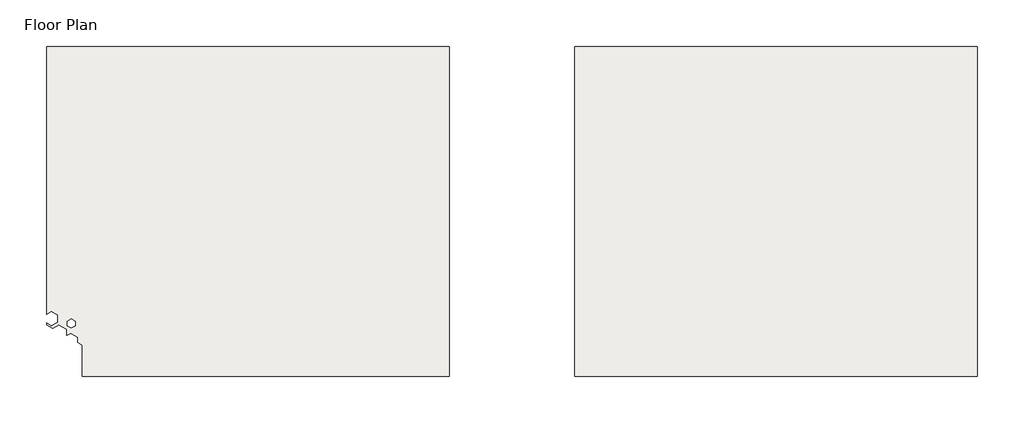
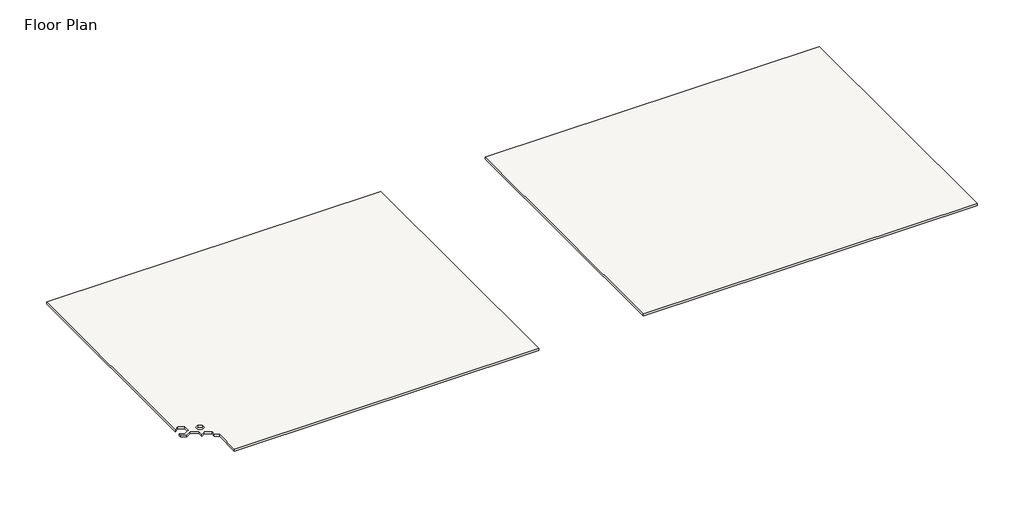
# One storey, incomplete: 2 slabs.
"""IFC4 building model written with IfcOpenShell, lengths in millimetres."""

from ifc_helpers import new_model, si_unit, frame, origin, place, context, project, spatial, polyline, outline, extrude, element, save

model = new_model("IFC4")

# Units and contexts
model_context = context("Model", 3, world=origin())
ifc_project = project(units=[si_unit("LENGTHUNIT", "METRE", prefix="MILLI")], contexts=[model_context])

# Site, building, storey
site = spatial("IfcSite", under=ifc_project)
building = spatial("IfcBuilding", under=site)
storey = spatial("IfcBuildingStorey", under=building, Name="Floor Plan", Elevation=0.0)

# Slabs
placement = place(None, origin())
element("IfcSlab", 1, ObjectType="Cemintel Constructafloor Internal 19mm x 600mm x 2700mm", at=placement, inside=storey, context=model_context, shape_type="SweptSolid", body=[
    extrude(outline(polyline([(334848.0, 1303.1444811), (334848.0, -1196.8555189), (332070.7891282, -1196.8555189), (332070.7891282, -960.9815933), (332036.148112, -940.9815933), (332036.148112, -901.8707494), (331981.4990878, -870.3191206), (331952.2304478, -887.2173778), (331952.2304478, -840.5791481), (331892.9994433, -806.3821117), (331846.9949178, -832.9428369), (331800.0, -805.8103085), (331800.0, -792.7920671), (331837.0129354, -814.1614953), (331883.3650904, -787.4000661), (331883.3650904, -732.2284328), (331837.0129354, -705.4670036), (331800.0, -726.8364318), (331800.0, 1303.1444811), (334848.0, 1303.1444811)]), holes=[polyline([(332017.9242495, -781.1383062), (331987.1193722, -763.353102), (331956.3144949, -781.1383062), (331956.3144949, -813.746101), (331987.1193722, -831.5313052), (332017.9242495, -813.746101), (332017.9242495, -781.1383062)])]), frame((0.0, 0.0, -19.0), z_axis=(0.0, 0.0, 1.0), x_axis=(1.0, 0.0, 0.0)), (0.0, 0.0, 1.0), 19.0),
])
element("IfcSlab", 2, ObjectType="Cemintel Constructafloor Internal 19mm x 900mm x 1800mm", at=placement, inside=storey, context=model_context, shape_type="SweptSolid", body=[
    extrude(outline(polyline([(338848.0, 1303.1444811), (338848.0, -1196.8555189), (335800.0, -1196.8555189), (335800.0, 1303.1444811), (338848.0, 1303.1444811)])), frame((0.0, 0.0, -19.0), z_axis=(0.0, 0.0, 1.0), x_axis=(1.0, 0.0, 0.0)), (0.0, 0.0, 1.0), 19.0),
])

save(model, "model.ifc")
